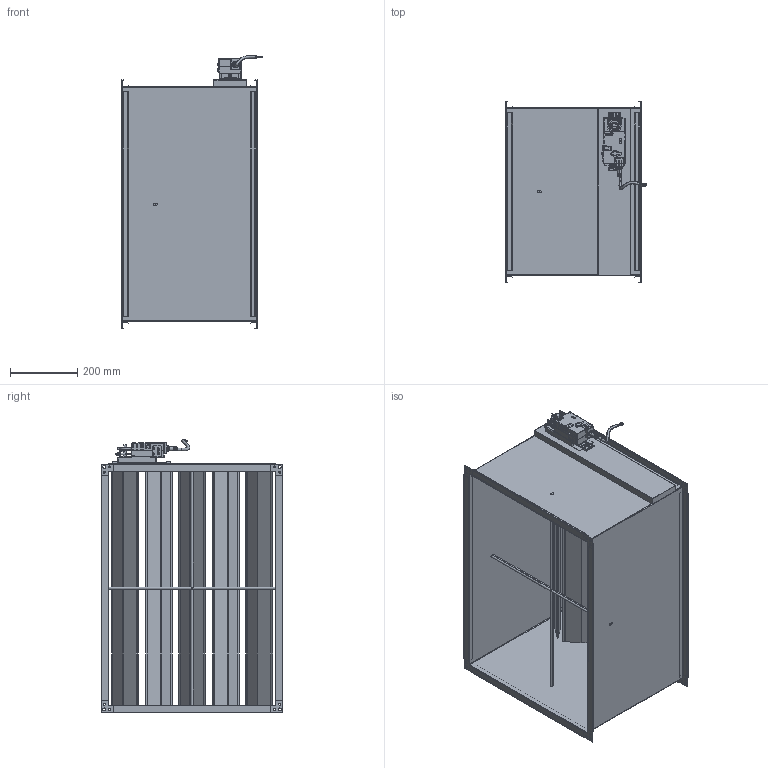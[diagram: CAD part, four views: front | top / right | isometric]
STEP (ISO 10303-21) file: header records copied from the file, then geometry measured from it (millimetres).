
FILE_DESCRIPTION (( 'STEP AP214' ), '1' );
FILE_NAME ('VAV-S700500.STEP', '2025-05-08T11:44:31', ( '' ), ( '' ), 'SwSTEP 2.0', 'SolidWorks 2025', '' );
FILE_SCHEMA (( 'AUTOMOTIVE_DESIGN' ));
Length unit declared in the file: millimetre
Products named in the file (1): VAV-S700500
Bounding box: 419.93 x 541 x 813.69 mm (x, y, z)
Surface area: 3735224.9 mm2 (no closed solid volume)
Topology: 0 solids, 48 shells, 2098 faces, 5474 edges, 3480 vertices
Faces by surface type: plane 1541, cylinder 504, bspline 24, sphere 18, cone 10, torus 1
Full cylindrical faces by diameter (mm): 1 x4, 6 x17, 8 x1, 9 x8, 11 x1, 20 x1, 21 x2
Entity records: 91725 total; most frequent: CARTESIAN_POINT 41355, ORIENTED_EDGE 10731, DIRECTION 6921, EDGE_CURVE 5389, VERTEX_POINT 3453, B_SPLINE_CURVE_WITH_KNOTS 3154, AXIS2_PLACEMENT_3D 2635, EDGE_LOOP 2303
